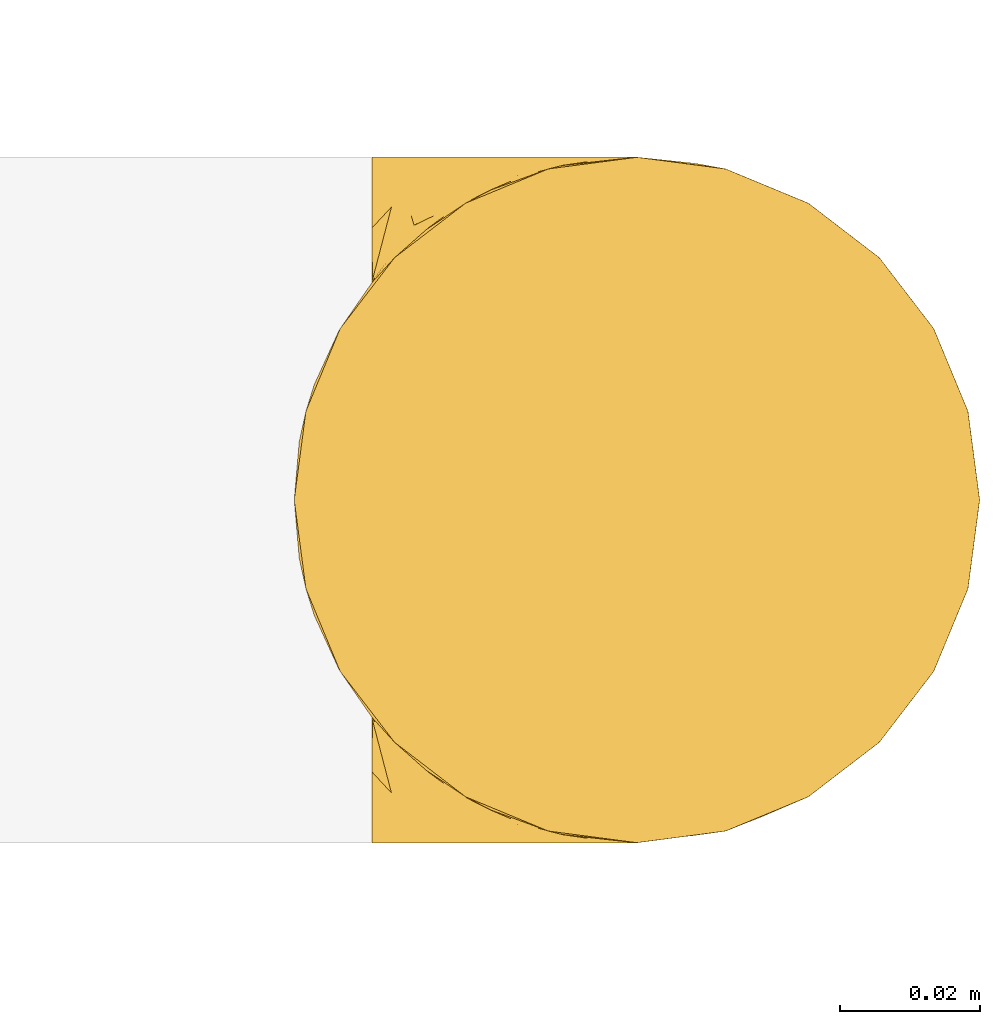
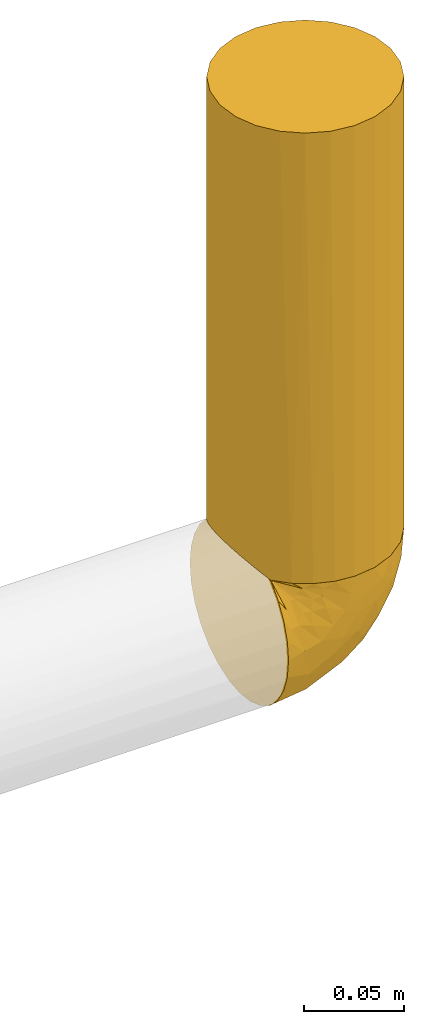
# One storey, part 4 of 6: 2 coverings.
"""IFC2X3 building model written with IfcOpenShell, lengths in millimetres."""

from ifc_helpers import new_model, entity, si_unit, converted_unit, derived_unit, direction, frame, origin, place, context, subcontext, project, spatial, faceted_brep, material, element, save


model = new_model("IFC2X3")

# Units and contexts
model_context = context("Model", 3, precision=0.01, world=origin(), true_north=direction((6.123031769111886e-17, 1.0)))
body_context = subcontext(model_context, "Body", "Model", "MODEL_VIEW")
ifc_project = project(units=[si_unit("LENGTHUNIT", "METRE", prefix="MILLI"), si_unit("AREAUNIT", "SQUARE_METRE"), si_unit("VOLUMEUNIT", "CUBIC_METRE"), converted_unit("PLANEANGLEUNIT", "DEGREE", entity("IfcRatioMeasure", 0.017453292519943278), si_unit("PLANEANGLEUNIT", "RADIAN"), dimensions=[0, 0, 0, 0, 0, 0, 0]), si_unit("MASSUNIT", "GRAM", prefix="KILO"), derived_unit("MASSDENSITYUNIT", [(si_unit("MASSUNIT", "GRAM", prefix="KILO"), 1), (si_unit("LENGTHUNIT", "METRE"), -3)]), derived_unit("IONCONCENTRATIONUNIT", [(si_unit("MASSUNIT", "GRAM", prefix="KILO"), 1), (si_unit("LENGTHUNIT", "METRE"), -3)]), derived_unit("MOMENTOFINERTIAUNIT", [(si_unit("LENGTHUNIT", "METRE"), 4)]), si_unit("TIMEUNIT", "SECOND"), si_unit("FREQUENCYUNIT", "HERTZ"), si_unit("THERMODYNAMICTEMPERATUREUNIT", "DEGREE_CELSIUS"), derived_unit("THERMALTRANSMITTANCEUNIT", [(si_unit("MASSUNIT", "GRAM", prefix="KILO"), 1), (si_unit("THERMODYNAMICTEMPERATUREUNIT", "KELVIN"), -1), (si_unit("TIMEUNIT", "SECOND"), -3)]), derived_unit("THERMALCONDUCTANCEUNIT", [(si_unit("MASSUNIT", "GRAM", prefix="KILO"), 1), (si_unit("THERMODYNAMICTEMPERATUREUNIT", "KELVIN"), -1), (si_unit("TIMEUNIT", "SECOND"), -3), (si_unit("LENGTHUNIT", "METRE"), 1)]), derived_unit("VOLUMETRICFLOWRATEUNIT", [(si_unit("LENGTHUNIT", "METRE"), 3), (si_unit("TIMEUNIT", "SECOND"), -1)]), derived_unit("MASSFLOWRATEUNIT", [(si_unit("MASSUNIT", "GRAM", prefix="KILO"), 1), (si_unit("TIMEUNIT", "SECOND"), -1)]), derived_unit("ROTATIONALFREQUENCYUNIT", [(si_unit("TIMEUNIT", "SECOND"), -1)]), si_unit("ELECTRICCURRENTUNIT", "AMPERE"), si_unit("ELECTRICVOLTAGEUNIT", "VOLT"), si_unit("POWERUNIT", "WATT"), si_unit("FORCEUNIT", "NEWTON", prefix="KILO"), si_unit("ILLUMINANCEUNIT", "LUX"), si_unit("LUMINOUSFLUXUNIT", "LUMEN"), si_unit("LUMINOUSINTENSITYUNIT", "CANDELA"), derived_unit("USERDEFINED", [(si_unit("MASSUNIT", "GRAM", prefix="KILO"), -1), (si_unit("LENGTHUNIT", "METRE"), -2), (si_unit("TIMEUNIT", "SECOND"), 3), (si_unit("LUMINOUSFLUXUNIT", "LUMEN"), 1)]), derived_unit("USERDEFINED", [(si_unit("MASSUNIT", "GRAM", prefix="KILO"), 1), (si_unit("TIMEUNIT", "SECOND"), -3), (si_unit("LENGTHUNIT", "METRE"), 3), (si_unit("ELECTRICCURRENTUNIT", "AMPERE"), -2)]), derived_unit("SOUNDPOWERUNIT", [(si_unit("MASSUNIT", "GRAM", prefix="KILO"), 1), (si_unit("TIMEUNIT", "SECOND"), -3), (si_unit("LENGTHUNIT", "METRE"), 2)]), derived_unit("SOUNDPRESSUREUNIT", [(si_unit("MASSUNIT", "GRAM", prefix="KILO"), 1), (si_unit("LENGTHUNIT", "METRE"), -1), (si_unit("TIMEUNIT", "SECOND"), -2)]), derived_unit("LINEARVELOCITYUNIT", [(si_unit("LENGTHUNIT", "METRE"), 1), (si_unit("TIMEUNIT", "SECOND"), -1)]), si_unit("PRESSUREUNIT", "PASCAL"), derived_unit("USERDEFINED", [(si_unit("MASSUNIT", "GRAM", prefix="KILO"), 1), (si_unit("LENGTHUNIT", "METRE"), -2), (si_unit("TIMEUNIT", "SECOND"), -2)]), derived_unit("LINEARFORCEUNIT", [(si_unit("MASSUNIT", "GRAM", prefix="KILO"), 1), (si_unit("TIMEUNIT", "SECOND"), -2)]), derived_unit("PLANARFORCEUNIT", [(si_unit("MASSUNIT", "GRAM", prefix="KILO"), 1), (si_unit("LENGTHUNIT", "METRE"), -1), (si_unit("TIMEUNIT", "SECOND"), -2)]), derived_unit("SPECIFICHEATCAPACITYUNIT", [(si_unit("THERMODYNAMICTEMPERATUREUNIT", "KELVIN"), -1), (si_unit("LENGTHUNIT", "METRE"), 2), (si_unit("TIMEUNIT", "SECOND"), -2)]), derived_unit("HEATINGVALUEUNIT", [(si_unit("LENGTHUNIT", "METRE"), 2), (si_unit("TIMEUNIT", "SECOND"), -2)]), derived_unit("VAPORPERMEABILITYUNIT", [(si_unit("LENGTHUNIT", "METRE"), -1), (si_unit("TIMEUNIT", "SECOND"), 1)]), derived_unit("DYNAMICVISCOSITYUNIT", [(si_unit("MASSUNIT", "GRAM", prefix="KILO"), 1), (si_unit("TIMEUNIT", "SECOND"), -1), (si_unit("LENGTHUNIT", "METRE"), -1)]), derived_unit("THERMALEXPANSIONCOEFFICIENTUNIT", [(si_unit("THERMODYNAMICTEMPERATUREUNIT", "KELVIN"), -1)]), derived_unit("MODULUSOFELASTICITYUNIT", [(si_unit("MASSUNIT", "GRAM", prefix="KILO"), 1), (si_unit("LENGTHUNIT", "METRE"), -1), (si_unit("TIMEUNIT", "SECOND"), -2)]), derived_unit("ISOTHERMALMOISTURECAPACITYUNIT", [(si_unit("LENGTHUNIT", "METRE"), 3), (si_unit("MASSUNIT", "GRAM", prefix="KILO"), -1)]), derived_unit("MOISTUREDIFFUSIVITYUNIT", [(si_unit("TIMEUNIT", "SECOND"), -1), (si_unit("LENGTHUNIT", "METRE"), 2)])], contexts=[model_context])

# Site, building, storey
site_placement = place(None, origin())
site = spatial("IfcSite", under=ifc_project, at=site_placement, Name="Default", CompositionType="ELEMENT")
building_placement = place(site_placement, origin())
building = spatial("IfcBuilding", under=site, at=building_placement, CompositionType="ELEMENT")
storey_placement = place(building_placement, frame((0.0, 0.0, 3000.0)))
storey = spatial("IfcBuildingStorey", under=building, at=storey_placement, Name="Niveau 1", CompositionType="ELEMENT", Elevation=3000.0)

# Coverings
ifc_material = material(Name="Isolation - Laine minérale")
covering_1_placement = place(storey_placement, frame((-6659.897585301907, 9976.120352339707, -13.595272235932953)))
element("IfcCovering", 1, at=covering_1_placement, inside=storey, material=ifc_material, Name="Isolation des canalisations:Laine minérale", ObjectType="Isolation des canalisations:Laine minérale", PredefinedType="INSULATION", context=body_context, shape_type="Brep", body=[
    faceted_brep([(29.696487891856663, 6.323164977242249, 1.5952722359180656), (20.474956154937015, 12.012544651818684, 1.595272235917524), (12.725272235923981, 19.58435221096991, 1.595272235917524), (12.7252722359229, 81.86619226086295, 1.5952722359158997), (20.474956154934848, 89.437999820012, 1.5952722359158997), (29.696487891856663, 95.12737949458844, 1.5952722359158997), (39.940498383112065, 98.65694811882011, 1.5952722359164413), (50.72527223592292, 99.85527223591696, 1.5952722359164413), (63.4410519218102, 98.18120808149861, 1.5952722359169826), (75.29027223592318, 93.2731003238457, 1.5952722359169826), (85.46542839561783, 85.46542839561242, 1.595272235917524), (93.2731003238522, 75.29027223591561, 1.5952722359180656), (98.1812080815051, 63.44105192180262, 1.595272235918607), (99.85527223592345, 50.72527223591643, 1.595272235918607), (98.1812080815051, 38.00949255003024, 1.5952722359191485), (93.2731003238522, 26.160272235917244, 1.5952722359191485), (85.46542839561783, 15.98511607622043, 1.5952722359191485), (75.29027223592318, 8.17744414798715, 1.5952722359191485), (63.4410519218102, 3.26933639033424, 1.595272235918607), (50.72527223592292, 1.5952722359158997, 1.595272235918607), (39.94049838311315, 2.793596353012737, 1.5952722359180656), (3.26933639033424, 63.44105192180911, 275.59527223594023), (1.5952722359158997, 50.72527223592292, 275.5952722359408), (3.26933639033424, 38.00949255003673, 275.5952722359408), (8.17744414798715, 26.160272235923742, 275.5952722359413), (15.985116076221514, 15.985116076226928, 275.5952722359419), (26.160272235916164, 8.177444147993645, 275.5952722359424), (38.00949255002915, 3.2693363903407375, 275.5952722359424), (50.72527223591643, 1.595272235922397, 275.59527223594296), (63.4410519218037, 3.2693363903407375, 275.59527223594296), (75.29027223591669, 8.177444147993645, 275.59527223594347), (85.46542839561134, 15.985116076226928, 275.59527223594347), (93.2731003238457, 26.160272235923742, 275.59527223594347), (98.18120808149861, 38.00949255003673, 275.59527223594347), (99.85527223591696, 50.72527223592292, 275.59527223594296), (98.18120808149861, 63.44105192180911, 275.59527223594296), (93.2731003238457, 75.2902722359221, 275.5952722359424), (85.46542839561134, 85.46542839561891, 275.5952722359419), (75.29027223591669, 93.2731003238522, 275.5952722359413), (63.4410519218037, 98.1812080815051, 275.5952722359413), (50.72527223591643, 99.85527223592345, 275.5952722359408), (38.00949255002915, 98.1812080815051, 275.5952722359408), (26.160272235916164, 93.2731003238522, 275.59527223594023), (15.985116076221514, 85.46542839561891, 275.59527223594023), (8.17744414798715, 75.2902722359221, 275.59527223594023), (4.461372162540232, 34.190204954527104, 9.859172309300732), (2.317099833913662, 42.334459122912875, 12.00344463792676), (1.595272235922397, 50.72527223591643, 12.725272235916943), (7.965081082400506, 26.531823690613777, 6.3554633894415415), (2.317099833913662, 59.11608534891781, 12.003444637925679), (4.461372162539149, 67.26033951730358, 9.85917230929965), (7.965081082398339, 74.9187207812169, 6.355463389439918)], [[[0, 1, 2, 3, 4, 5, 6, 7, 8, 9, 10, 11, 12, 13, 14, 15, 16, 17, 18, 19, 20]], [[21, 22, 23, 24, 25, 26, 27, 28, 29, 30, 31, 32, 33, 34, 35, 36, 37, 38, 39, 40, 41, 42, 43, 44]], [[33, 32, 15, 14]], [[34, 33, 14, 13]], [[32, 31, 16, 15]], [[18, 17, 30, 29]], [[19, 18, 29, 28]], [[31, 30, 17, 16]], [[20, 28, 27]], [[0, 27, 26]], [[1, 26, 25]], [[19, 28, 20]], [[20, 27, 0]], [[26, 1, 0]], [[25, 2, 1]], [[45, 24, 23]], [[23, 22, 46]], [[47, 46, 22]], [[48, 2, 24]], [[46, 45, 23]], [[48, 24, 45]], [[24, 2, 25]], [[49, 47, 22]], [[49, 22, 21]], [[50, 21, 44]], [[50, 49, 21]], [[3, 51, 44]], [[50, 44, 51]], [[44, 43, 3]], [[4, 43, 42]], [[5, 42, 41]], [[6, 41, 40]], [[4, 42, 5]], [[5, 41, 6]], [[40, 7, 6]], [[43, 4, 3]], [[8, 7, 40, 39]], [[9, 8, 39, 38]], [[38, 37, 10, 9]], [[12, 11, 36, 35]], [[13, 12, 35, 34]], [[37, 36, 11, 10]], [[46, 47, 49, 50, 51, 3, 2, 48, 45]]]),
])
covering_2_placement = place(storey_placement, frame((-6648.767585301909, 9976.100352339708, -100.74527223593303)))
element("IfcCovering", 2, at=covering_2_placement, inside=storey, material=ifc_material, Name="Isolation des canalisations:Laine minérale", ObjectType="Isolation des canalisations:Laine minérale", PredefinedType="INSULATION", context=body_context, shape_type="Brep", body=[
    faceted_brep([(1.5952722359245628, 95.02415814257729, 29.41213456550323), (1.5952722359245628, 89.1663101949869, 20.0932520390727), (1.5952722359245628, 81.38263886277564, 12.312548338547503), (1.5952722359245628, 72.06354573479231, 6.459227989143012), (1.5952722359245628, 61.67593083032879, 2.826140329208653), (1.5952722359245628, 50.74527223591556, 1.5952722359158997), (1.5952722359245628, 39.80290363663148, 2.828812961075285), (1.5952722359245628, 29.412134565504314, 6.466386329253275), (1.5952722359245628, 20.093252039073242, 12.324234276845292), (1.5952722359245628, 12.312548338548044, 20.10790560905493), (1.5952722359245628, 6.459227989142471, 29.426998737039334), (1.5952722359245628, 2.826140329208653, 39.814613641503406), (1.5952722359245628, 1.5952722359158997, 50.7452722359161), (1.5952722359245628, 2.765001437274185, 61.40435822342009), (1.5952722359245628, 6.216868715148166, 71.55257335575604), (1.5952722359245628, 11.785042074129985, 80.70896636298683), (1.5952722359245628, 19.19437336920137, 88.43165280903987), (1.5952722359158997, 21.638642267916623, 88.43165280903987), (1.5952722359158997, 23.41569473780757, 88.43165280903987), (1.5952722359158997, 25.192747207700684, 88.43165280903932), (1.5952722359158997, 26.692340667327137, 88.43165280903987), (1.5952722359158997, 28.191934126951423, 88.43165280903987), (1.5952722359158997, 31.191121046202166, 88.43165280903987), (1.5952722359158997, 34.19030796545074, 88.43165280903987), (1.5952722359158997, 37.18949488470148, 88.43165280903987), (1.5952722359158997, 40.18868180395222, 88.43165280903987), (1.5952722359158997, 41.68827526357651, 88.43165280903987), (1.5952722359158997, 43.18786872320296, 88.43165280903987), (1.5952722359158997, 45.63213762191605, 88.43165280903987), (1.5952722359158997, 48.07640652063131, 88.43165280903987), (1.5952722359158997, 50.5206754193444, 88.43165280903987), (1.5952722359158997, 52.96494431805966, 88.43165280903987), (1.5952722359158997, 55.40921321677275, 88.43165280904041), (1.5952722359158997, 57.85348211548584, 88.43165280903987), (1.5952722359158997, 60.2977510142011, 88.43165280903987), (1.5952722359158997, 62.742019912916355, 88.43165280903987), (1.5952722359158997, 65.18628881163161, 88.43165280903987), (1.5952722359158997, 67.6305577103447, 88.43165280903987), (1.5952722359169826, 70.0748266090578, 88.43165280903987), (1.5952722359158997, 72.51909550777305, 88.43165280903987), (1.5952722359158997, 74.96336440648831, 88.43165280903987), (1.5952722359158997, 77.4076333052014, 88.43165280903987), (1.5952722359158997, 79.85190220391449, 88.43165280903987), (1.5952722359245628, 82.29617110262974, 88.43165280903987), (1.5952722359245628, 89.71827412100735, 80.69235262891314), (1.5952722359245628, 95.28368576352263, 71.53113811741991), (1.5952722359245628, 98.73008326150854, 61.38390047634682), (1.5952722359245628, 99.89527223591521, 50.74527223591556), (1.5952722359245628, 98.66173151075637, 39.80290363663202), (9.641963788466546, 11.777056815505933, 88.74527223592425), (18.798688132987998, 6.211862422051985, 88.74527223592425), (28.94385431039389, 2.7632985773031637, 88.74527223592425), (39.59527223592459, 1.5952722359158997, 88.74527223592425), (52.31622830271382, 3.270017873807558, 88.74527223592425), (64.17027223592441, 8.18012363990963, 88.74527223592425), (74.34957053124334, 15.990973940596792, 88.74527223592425), (82.16042083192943, 26.170272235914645, 88.74527223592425), (87.07052659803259, 38.02431616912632, 88.74527223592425), (88.74527223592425, 50.74527223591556, 88.74527223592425), (87.07052659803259, 63.46622830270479, 88.74527223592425), (82.16042083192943, 75.3202722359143, 88.74527223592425), (74.34957053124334, 85.49957053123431, 88.74527223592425), (64.17027223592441, 93.31042083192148, 88.74527223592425), (52.31622830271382, 98.22052659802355, 88.74527223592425), (39.59527223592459, 99.89527223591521, 88.74527223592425), (28.94385431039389, 98.72724589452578, 88.74527223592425), (18.798688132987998, 95.27868204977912, 88.74527223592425), (9.641963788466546, 89.71348765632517, 88.74527223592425), (1.908891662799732, 82.29617110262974, 88.74527223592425), (1.908891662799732, 79.85190220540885, 88.74527223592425), (1.908891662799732, 78.3523087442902, 88.74527223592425), (1.908891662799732, 76.3803775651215, 88.74527223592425), (1.908891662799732, 74.40844638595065, 88.74527223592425), (1.908891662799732, 72.43651520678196, 88.74527223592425), (1.908891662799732, 70.46458402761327, 88.74527223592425), (1.908891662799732, 68.49265284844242, 88.74527223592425), (1.908891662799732, 66.52072166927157, 88.74527223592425), (1.908891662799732, 64.54879049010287, 88.74527223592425), (1.908891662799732, 62.57685931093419, 88.74527223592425), (1.908891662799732, 60.60492813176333, 88.74527223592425), (1.908891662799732, 58.632996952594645, 88.74527223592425), (1.908891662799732, 56.661065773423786, 88.74527223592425), (1.908891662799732, 54.6891345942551, 88.74527223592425), (1.908891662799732, 52.71720341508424, 88.74527223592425), (1.908891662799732, 50.74527223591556, 88.74527223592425), (1.908891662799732, 48.773341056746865, 88.74527223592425), (1.908891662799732, 46.80140987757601, 88.74527223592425), (1.908891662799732, 44.82947869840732, 88.74527223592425), (1.908891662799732, 42.85754751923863, 88.74527223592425), (1.908891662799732, 40.88561634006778, 88.74527223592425), (1.908891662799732, 38.913685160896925, 88.74527223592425), (1.908891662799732, 36.94175398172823, 88.74527223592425), (1.908891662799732, 34.96982280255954, 88.74527223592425), (1.908891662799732, 31.97063588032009, 88.74527223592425), (1.908891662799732, 28.971448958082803, 88.74527223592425), (1.908891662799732, 26.5271800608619, 88.74527223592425), (1.908891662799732, 24.082911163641, 88.74527223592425), (1.908891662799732, 21.638642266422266, 88.74527223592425), (1.908891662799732, 19.19437336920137, 88.74527223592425), (1.8241875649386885, 53.75333970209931, 88.53090125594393), (1.815624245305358, 51.832765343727, 88.52210831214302), (1.8147227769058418, 61.47290163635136, 88.52122178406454), (1.8212241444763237, 63.562825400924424, 88.5277799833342), (1.8331787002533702, 48.00102702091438, 88.54092532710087), (1.828016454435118, 77.2499939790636, 88.5350645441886), (1.7792781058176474, 80.69913834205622, 88.49130573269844), (1.8114926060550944, 42.43807145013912, 88.51810292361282), (1.8170346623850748, 22.860776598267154, 88.52350981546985), (1.81898896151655, 24.70021643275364, 88.52548149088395), (1.8098308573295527, 71.3700895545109, 88.51653277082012), (1.820221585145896, 73.40383885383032, 88.52674320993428), (1.796462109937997, 44.410002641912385, 88.5046900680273), (1.8230063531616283, 37.92771907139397, 88.52964682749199), (1.8262968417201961, 39.81308540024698, 88.5331760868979), (1.8091041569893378, 35.95578792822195, 88.51585328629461), (1.8225274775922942, 49.75930651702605, 88.52914218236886), (1.817034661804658, 79.10210557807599, 88.52350981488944), (1.8194169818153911, 21.02757498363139, 88.52591800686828), (1.8294378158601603, 55.67510065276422, 88.5366490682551), (1.8301744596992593, 67.50668767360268, 88.5374788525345), (1.82588831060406, 65.61454699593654, 88.5327319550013), (1.8272900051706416, 34.104580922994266, 88.53426299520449), (1.8267767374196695, 57.55217518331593, 88.53370000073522), (1.8278964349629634, 75.39441218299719, 88.53493173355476), (1.8170346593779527, 82.29617110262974, 88.52350981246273), (1.747915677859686, 82.29617110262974, 88.49487979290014), (1.6787966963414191, 82.29617110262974, 88.46624977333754), (1.8170346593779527, 19.19437336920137, 88.52350981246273), (1.8456646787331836, 19.19437336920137, 88.59262879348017), (1.8742946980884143, 19.19437336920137, 88.66174777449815), (1.802653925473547, 32.212157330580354, 88.51000647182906), (1.8237404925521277, 69.4355922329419, 88.5304248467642), (1.8159875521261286, 46.248287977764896, 88.52246762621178), (1.8182226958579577, 59.49061335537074, 88.52470424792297), (1.7977740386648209, 29.41925201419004, 88.50579329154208), (1.8208977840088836, 27.44213716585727, 88.52744143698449), (1.8742946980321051, 82.29617110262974, 88.66174777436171), (1.845664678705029, 82.29617110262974, 88.59262879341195), (1.6787966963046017, 19.19437336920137, 88.46624977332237), (1.7479156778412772, 19.19437336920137, 88.49487979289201), (23.495219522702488, 4.210283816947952, 85.22080157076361), (13.747756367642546, 8.744179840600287, 85.93611072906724), (22.409779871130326, 4.210283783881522, 81.07807843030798), (10.56252268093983, 9.955583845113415, 83.13289242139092), (37.049754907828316, 1.5952722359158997, 79.24527223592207), (37.59734391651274, 1.5952722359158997, 81.28890223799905), (20.595272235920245, 1.5952722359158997, 55.83630689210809), (16.020149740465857, 2.93549782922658, 66.39553001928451), (9.261677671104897, 4.213452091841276, 67.94040403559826), (34.50423757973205, 1.5952722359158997, 69.7452722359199), (9.667897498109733, 9.405305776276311, 80.67378389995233), (7.20291242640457, 9.963487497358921, 79.7889209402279), (23.94474674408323, 2.9356418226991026, 74.3210935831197), (5.119390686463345, 4.213452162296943, 66.85470593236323), (4.402893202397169, 8.750654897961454, 76.60336361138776), (17.541506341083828, 5.690627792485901, 79.6491193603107), (9.051642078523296, 1.5952722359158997, 52.74320051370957), (11.095272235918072, 1.5952722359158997, 53.290789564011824), (16.72885944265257, 4.482619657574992, 73.6116849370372), (27.549754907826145, 1.5952722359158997, 62.790789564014), (12.071559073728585, 5.766057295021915, 73.87988529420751), (47.62395095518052, 2.6117250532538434, 75.32913676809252), (44.00144112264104, 2.657531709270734, 65.9107418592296), (58.899698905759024, 11.131578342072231, 53.84761415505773), (72.66771487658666, 20.824647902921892, 59.13651173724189), (67.20155656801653, 11.7519547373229, 71.16612245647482), (54.07984229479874, 5.336592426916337, 67.00545271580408), (57.54110754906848, 5.33659286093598, 78.88051287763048), (72.10110329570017, 50.74527223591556, 37.51978749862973), (84.47984763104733, 50.74527223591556, 61.81444117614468), (80.24801351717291, 40.339739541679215, 53.87520138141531), (13.851436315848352, 9.12424327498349, 25.784943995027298), (15.165285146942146, 4.351045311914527, 36.244182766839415), (60.77765845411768, 32.64695426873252, 29.562882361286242), (55.38583609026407, 23.768909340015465, 30.770681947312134), (43.89737524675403, 35.61531809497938, 15.292222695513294), (86.12648113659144, 41.696133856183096, 71.31385843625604), (73.23168363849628, 30.50981773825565, 47.24102741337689), (64.74738573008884, 21.748430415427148, 43.5038930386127), (77.40373146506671, 20.824647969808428, 75.289852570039), (82.14716981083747, 31.9363827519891, 67.10273039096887), (52.829115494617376, 15.984346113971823, 37.099200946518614), (48.878965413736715, 9.509703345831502, 44.515176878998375), (40.607220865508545, 11.405769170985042, 33.70477633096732), (28.76995319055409, 3.723532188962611, 44.051694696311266), (27.448445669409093, 9.124242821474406, 30.044081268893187), (19.800365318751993, 15.984347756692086, 18.312338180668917), (28.52610329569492, 50.74527223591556, 5.860696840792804), (22.71562192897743, 34.50535109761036, 7.04140620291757), (42.31748570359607, 18.53593481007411, 25.61446965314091), (33.68382770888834, 24.588194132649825, 15.88691587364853), (16.806973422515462, 24.58819389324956, 10.600409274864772), (71.07858054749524, 39.07585882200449, 38.50378416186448), (60.332491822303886, 42.346184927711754, 25.34518062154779), (33.37332146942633, 2.563252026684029, 53.16350413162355), (52.82075697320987, 50.74527223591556, 18.23944117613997), (43.46542968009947, 4.72244931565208, 52.69469876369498), (79.2001746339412, 69.55416102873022, 58.175892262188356), (86.24488809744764, 59.5851078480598, 71.70091272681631), (80.83807017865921, 59.865425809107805, 54.574333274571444), (72.52816019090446, 66.13789702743, 42.49805076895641), (83.87397883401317, 69.55416221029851, 75.06235489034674), (35.798660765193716, 85.49332197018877, 24.525141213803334), (48.02046276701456, 78.98858976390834, 25.78634265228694), (33.68736739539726, 76.88743080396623, 15.878231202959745), (52.83844921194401, 85.49294527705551, 37.089792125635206), (59.75598123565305, 78.28666517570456, 35.7133620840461), (15.17001623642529, 97.13479117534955, 36.23150879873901), (45.55141709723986, 98.95303587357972, 70.53804152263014), (34.50423757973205, 99.89527223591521, 69.7452722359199), (37.049754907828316, 99.89527223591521, 79.24527223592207), (22.71467774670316, 66.97173870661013, 7.03629942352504), (76.07714087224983, 80.665896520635, 69.24086116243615), (27.45465165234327, 92.35692696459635, 30.030512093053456), (13.854008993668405, 92.35692651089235, 25.770245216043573), (68.47065883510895, 89.73858944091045, 76.87540408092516), (56.45843349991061, 96.15395178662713, 74.00473445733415), (68.08854506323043, 79.62483877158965, 48.41047025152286), (64.29272071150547, 89.7385902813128, 62.62553049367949), (66.01125638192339, 59.508159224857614, 31.220776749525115), (60.78019542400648, 68.83452868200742, 29.56034539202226), (48.01911236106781, 99.01263503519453, 79.82666983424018), (16.809109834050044, 76.88743104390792, 10.591274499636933), (43.900853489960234, 65.85652255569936, 15.287247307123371), (19.803681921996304, 85.49294363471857, 18.299506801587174), (28.786726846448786, 97.76388503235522, 44.049870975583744), (20.595272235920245, 99.89527223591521, 55.83630689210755), (35.485066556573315, 98.78930951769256, 54.23536248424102), (27.549754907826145, 99.89527223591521, 62.790789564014), (9.051642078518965, 99.89527223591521, 52.74320051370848), (11.095272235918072, 99.89527223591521, 53.290789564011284), (53.16291239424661, 91.50386042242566, 48.41211537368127), (52.05308452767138, 96.4268312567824, 64.14304703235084), (41.401037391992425, 93.14991945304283, 40.10640265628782), (40.721221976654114, 99.08337182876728, 62.890734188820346), (60.91677547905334, 86.09107557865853, 47.67277833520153), (45.94061161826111, 96.67816905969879, 55.38955823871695), (22.409778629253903, 97.28026029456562, 81.0780784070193), (16.46425424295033, 95.72662397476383, 78.26566497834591), (23.943292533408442, 98.55465842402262, 74.32072912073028), (23.495218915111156, 97.28026045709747, 85.22080145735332), (13.74775580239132, 92.74636428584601, 85.93611080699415), (10.564867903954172, 91.53641117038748, 83.13257230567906), (7.656624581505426, 90.11275627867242, 82.68198005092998), (16.72348133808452, 97.0051951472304, 73.6170638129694), (7.2165179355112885, 91.54965419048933, 79.75777141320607), (9.263185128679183, 97.2842704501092, 67.91845358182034), (5.119593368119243, 97.28427059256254, 66.83334757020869), (4.405878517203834, 92.75147496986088, 76.58449008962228), (16.01862728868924, 98.55441347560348, 66.3977076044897), (10.692146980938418, 95.80583125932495, 72.78382599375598)], [[[0, 1, 2, 3, 4, 5, 6, 7, 8, 9, 10, 11, 12, 13, 14, 15, 16, 17, 18, 19, 20, 21, 22, 23, 24, 25, 26, 27, 28, 29, 30, 31, 32, 33, 34, 35, 36, 37, 38, 39, 40, 41, 42, 43, 44, 45, 46, 47, 48]], [[49, 50, 51, 52, 53, 54, 55, 56, 57, 58, 59, 60, 61, 62, 63, 64, 65, 66, 67, 68, 69, 70, 71, 72, 73, 74, 75, 76, 77, 78, 79, 80, 81, 82, 83, 84, 85, 86, 87, 88, 89, 90, 91, 92, 93, 94, 95, 96, 97, 98]], [[99, 100, 83]], [[101, 102, 35]], [[85, 103, 86]], [[71, 70, 104]], [[105, 69, 68]], [[27, 26, 106]], [[18, 107, 108]], [[109, 73, 110]], [[28, 27, 111]], [[25, 112, 113]], [[108, 96, 95]], [[114, 92, 91]], [[103, 85, 115]], [[96, 107, 97]], [[116, 70, 69]], [[107, 17, 117]], [[78, 102, 101]], [[99, 118, 32]], [[76, 119, 120]], [[121, 92, 114]], [[112, 90, 113]], [[88, 111, 106]], [[40, 39, 110]], [[107, 96, 108]], [[32, 118, 122]], [[91, 90, 112]], [[37, 120, 119]], [[84, 115, 85]], [[69, 105, 116]], [[71, 123, 72]], [[105, 124, 125, 126, 43]], [[117, 17, 16]], [[41, 116, 42]], [[117, 127, 128, 129, 98]], [[110, 123, 40]], [[42, 116, 105]], [[121, 23, 130]], [[24, 114, 112]], [[114, 24, 23]], [[104, 123, 71]], [[91, 112, 114]], [[104, 116, 41]], [[24, 112, 25]], [[110, 72, 123]], [[36, 120, 37]], [[40, 123, 41]], [[74, 73, 109]], [[131, 75, 74]], [[119, 131, 37]], [[109, 110, 39]], [[109, 39, 38]], [[73, 72, 110]], [[123, 104, 41]], [[116, 104, 70]], [[26, 25, 113]], [[113, 89, 106]], [[87, 86, 132]], [[113, 106, 26]], [[76, 75, 119]], [[132, 111, 87]], [[106, 111, 27]], [[132, 28, 111]], [[87, 111, 88]], [[88, 106, 89]], [[113, 90, 89]], [[131, 119, 75]], [[38, 37, 131]], [[120, 36, 102]], [[131, 109, 38]], [[109, 131, 74]], [[78, 77, 102]], [[77, 120, 102]], [[77, 76, 120]], [[122, 80, 133]], [[36, 35, 102]], [[33, 122, 133]], [[79, 78, 101]], [[34, 101, 35]], [[132, 29, 28]], [[80, 79, 133]], [[29, 103, 115]], [[30, 29, 115]], [[86, 103, 132]], [[100, 115, 84]], [[31, 30, 100]], [[115, 100, 30]], [[32, 31, 99]], [[118, 81, 122]], [[100, 84, 83]], [[99, 82, 118]], [[81, 118, 82]], [[33, 32, 122]], [[82, 99, 83]], [[100, 99, 31]], [[34, 33, 133]], [[122, 81, 80]], [[133, 101, 34]], [[101, 133, 79]], [[134, 94, 93]], [[23, 121, 114]], [[132, 103, 29]], [[121, 93, 92]], [[93, 121, 130]], [[97, 107, 117]], [[108, 20, 19, 18]], [[21, 135, 134]], [[20, 135, 21]], [[134, 135, 94]], [[108, 95, 135]], [[108, 135, 20]], [[135, 95, 94]], [[134, 22, 21]], [[130, 22, 134]], [[42, 105, 43]], [[105, 68, 136, 137, 124]], [[97, 117, 98]], [[117, 16, 138, 139, 127]], [[18, 17, 107]], [[93, 130, 134]], [[22, 130, 23]], [[140, 141, 142]], [[143, 129, 128, 127]], [[51, 144, 145, 52]], [[146, 147, 148]], [[142, 149, 144]], [[150, 127, 151]], [[50, 140, 51]], [[142, 152, 149]], [[51, 140, 144]], [[129, 143, 141]], [[14, 13, 153]], [[148, 151, 154]], [[155, 141, 143]], [[151, 138, 154]], [[14, 153, 154]], [[16, 15, 138]], [[13, 12, 156, 157]], [[152, 155, 158]], [[159, 158, 147]], [[157, 148, 153]], [[14, 154, 15]], [[49, 98, 129]], [[49, 129, 141]], [[141, 50, 49]], [[160, 148, 147]], [[146, 148, 157]], [[138, 15, 154]], [[150, 158, 155]], [[151, 127, 139, 138]], [[141, 140, 50]], [[144, 140, 142]], [[157, 153, 13]], [[154, 153, 148]], [[149, 152, 159]], [[160, 147, 158]], [[147, 146, 159]], [[155, 152, 142]], [[159, 152, 158]], [[127, 150, 143]], [[160, 150, 151]], [[150, 160, 158]], [[148, 160, 151]], [[141, 155, 142]], [[155, 143, 150]], [[156, 12, 11]], [[161, 149, 162]], [[163, 164, 165]], [[166, 167, 161]], [[168, 169, 170]], [[54, 165, 55]], [[171, 172, 10]], [[173, 174, 175]], [[57, 176, 58]], [[173, 177, 178]], [[179, 56, 55]], [[54, 167, 165]], [[170, 180, 177]], [[56, 179, 180]], [[167, 54, 53]], [[181, 182, 183]], [[184, 146, 172]], [[172, 185, 184]], [[186, 185, 171]], [[186, 9, 8]], [[172, 146, 157, 156]], [[172, 11, 10]], [[173, 178, 174]], [[6, 187, 188]], [[189, 186, 190]], [[191, 186, 8]], [[175, 190, 188]], [[168, 192, 193]], [[189, 190, 174]], [[56, 180, 57]], [[8, 7, 191]], [[188, 7, 6]], [[6, 5, 187]], [[190, 191, 188]], [[159, 194, 162]], [[175, 187, 195]], [[177, 180, 164]], [[10, 9, 171]], [[176, 180, 170]], [[156, 11, 172]], [[163, 165, 166]], [[179, 165, 164]], [[53, 52, 145]], [[185, 189, 183]], [[184, 196, 194]], [[188, 191, 7]], [[186, 191, 190]], [[186, 171, 9]], [[172, 171, 185]], [[187, 175, 188]], [[193, 175, 195]], [[196, 163, 166]], [[163, 181, 178]], [[162, 166, 161]], [[184, 185, 183]], [[178, 177, 164]], [[177, 192, 170]], [[177, 173, 192]], [[176, 170, 169]], [[58, 176, 169]], [[57, 180, 176]], [[193, 192, 173]], [[168, 170, 192]], [[175, 193, 173]], [[168, 193, 195]], [[163, 178, 164]], [[184, 194, 146]], [[178, 181, 174]], [[189, 174, 181]], [[175, 174, 190]], [[183, 189, 181]], [[186, 189, 185]], [[182, 181, 163]], [[183, 182, 184]], [[163, 196, 182]], [[184, 182, 196]], [[165, 179, 55]], [[180, 179, 164]], [[161, 53, 145]], [[165, 167, 166]], [[53, 161, 167]], [[161, 145, 144, 149]], [[159, 162, 149]], [[196, 166, 162]], [[162, 194, 196]], [[146, 194, 159]], [[197, 198, 199]], [[58, 169, 198]], [[197, 199, 200]], [[198, 197, 201]], [[202, 203, 204]], [[60, 59, 201]], [[205, 206, 203]], [[0, 48, 207]], [[208, 209, 210]], [[187, 4, 211]], [[201, 212, 60]], [[213, 214, 207]], [[61, 215, 62]], [[62, 215, 216]], [[3, 211, 4]], [[217, 218, 212]], [[219, 220, 200]], [[216, 208, 221]], [[3, 2, 222]], [[62, 216, 63]], [[61, 60, 212]], [[211, 3, 222]], [[5, 4, 187]], [[217, 197, 200]], [[203, 223, 204]], [[2, 1, 224]], [[225, 213, 207]], [[204, 222, 224]], [[1, 0, 214]], [[204, 224, 202]], [[207, 226, 225]], [[227, 226, 228]], [[223, 211, 204]], [[214, 224, 1]], [[202, 224, 213]], [[48, 47, 229]], [[207, 229, 230, 226]], [[211, 223, 187]], [[218, 231, 232]], [[48, 229, 207]], [[205, 233, 231]], [[233, 213, 225]], [[217, 212, 197]], [[215, 212, 218]], [[228, 234, 227]], [[233, 205, 202]], [[208, 234, 209]], [[63, 221, 64]], [[235, 205, 231]], [[207, 214, 0]], [[224, 214, 213]], [[224, 222, 2]], [[211, 222, 204]], [[219, 223, 220]], [[187, 223, 195]], [[227, 233, 225]], [[234, 228, 209]], [[231, 233, 236]], [[221, 208, 210]], [[232, 208, 216]], [[64, 221, 210]], [[216, 221, 63]], [[233, 202, 213]], [[203, 202, 205]], [[205, 235, 206]], [[223, 203, 220]], [[200, 206, 217]], [[220, 203, 206]], [[232, 231, 236]], [[235, 218, 217]], [[212, 215, 61]], [[216, 215, 218]], [[218, 232, 216]], [[234, 232, 236]], [[232, 234, 208]], [[234, 236, 227]], [[233, 227, 236]], [[226, 227, 225]], [[198, 201, 59]], [[212, 201, 197]], [[58, 198, 59]], [[198, 169, 199]], [[169, 168, 199]], [[219, 200, 199]], [[219, 199, 168]], [[200, 220, 206]], [[168, 195, 219]], [[223, 219, 195]], [[218, 235, 231]], [[206, 235, 217]], [[65, 64, 210]], [[209, 237, 210]], [[238, 237, 239]], [[66, 240, 241]], [[242, 136, 241]], [[243, 137, 242]], [[243, 244, 245]], [[65, 240, 66]], [[136, 68, 67]], [[136, 67, 241]], [[246, 226, 230]], [[66, 241, 67]], [[210, 237, 240]], [[45, 247, 46]], [[209, 239, 237]], [[246, 247, 248]], [[46, 247, 230]], [[249, 250, 244]], [[239, 228, 244]], [[226, 246, 249]], [[250, 248, 245]], [[44, 43, 126]], [[237, 242, 241]], [[248, 45, 44]], [[44, 126, 248]], [[46, 230, 229, 47]], [[245, 126, 125]], [[126, 245, 248]], [[243, 124, 137]], [[210, 240, 65]], [[241, 240, 237]], [[248, 247, 45]], [[230, 247, 246]], [[226, 249, 228]], [[238, 239, 244]], [[239, 209, 228]], [[250, 249, 246]], [[228, 249, 244]], [[243, 242, 238]], [[136, 242, 137]], [[124, 243, 125]], [[125, 243, 245]], [[243, 238, 244]], [[237, 238, 242]], [[248, 250, 246]], [[244, 250, 245]]]),
])

save(model, "model.ifc")
